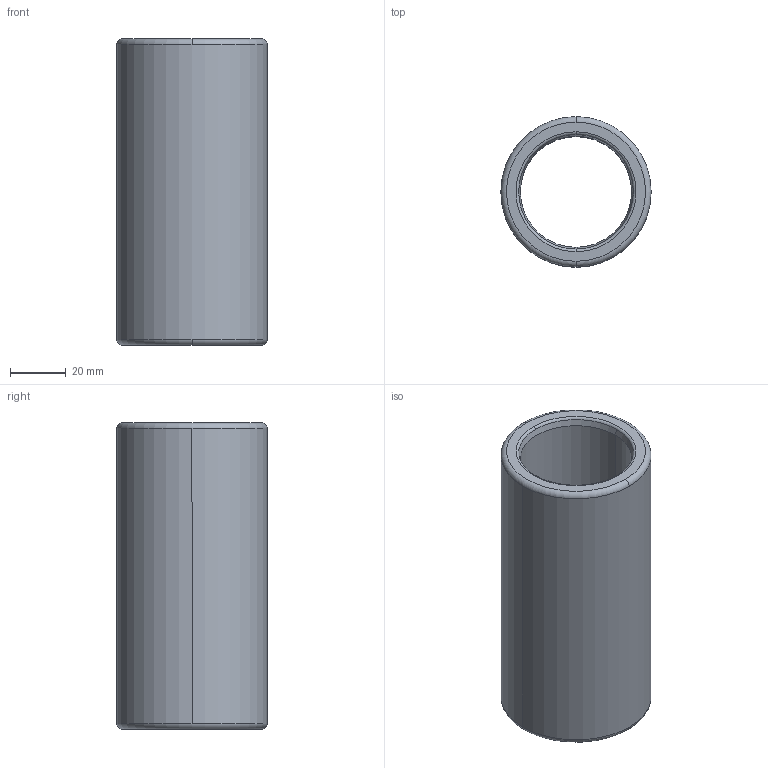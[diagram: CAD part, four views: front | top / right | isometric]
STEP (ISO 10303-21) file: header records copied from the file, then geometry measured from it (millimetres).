
FILE_DESCRIPTION((''),'2;1');
FILE_NAME('B30_032_110.stp','2009-01-12T10:28:37',(''),(''),'Mechanical Desktop 2009','Mechanical Desktop 2009',', , ');
FILE_SCHEMA(('CONFIG_CONTROL_DESIGN'));
Length unit declared in the file: millimetre
Products named in the file (2): Product; blmdl1
Assembly tree (1 placements, depth 2):
  Product
    blmdl1
Bounding box: 53.99 x 53.99 x 110 mm (x, y, z)
Volume: 113182.4 mm3; surface area: 34018.1 mm2
Topology: 1 solids, 1 shells, 18 faces, 48 edges, 32 vertices
Faces by surface type: torus 8, cylinder 4, cone 4, plane 2
Entity records: 705 total; most frequent: DIRECTION 128, CARTESIAN_POINT 100, ORIENTED_EDGE 96, AXIS2_PLACEMENT_3D 60, EDGE_CURVE 48, CIRCLE 40, VERTEX_POINT 32, EDGE_LOOP 20
